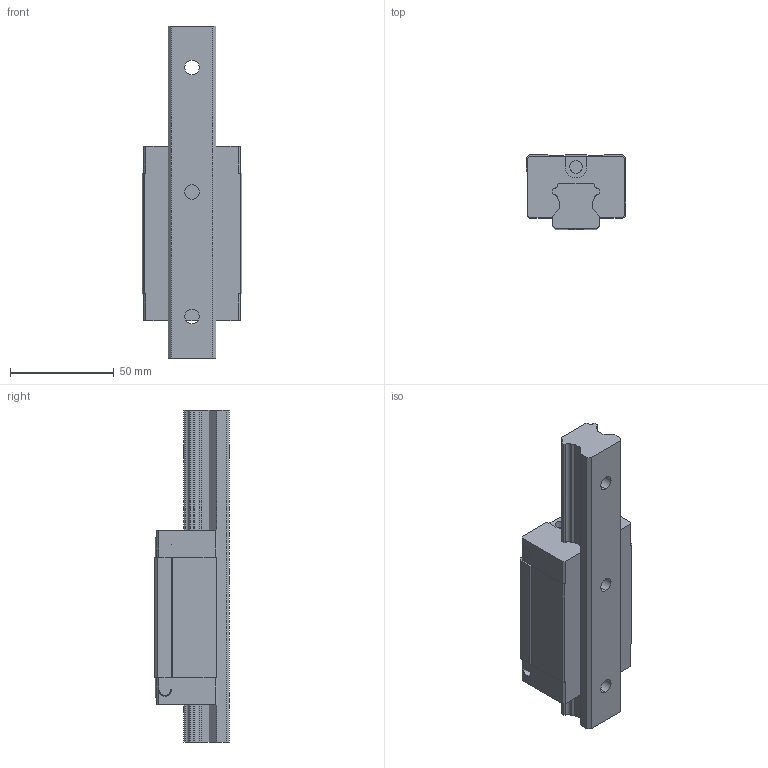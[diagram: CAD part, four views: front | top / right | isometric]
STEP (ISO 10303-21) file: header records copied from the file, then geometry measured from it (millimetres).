
FILE_DESCRIPTION((''),'2;1');
FILE_NAME('ASM0003_ASM','2008-07-14T',('immo'),(''),'PRO/ENGINEER BY PARAMETRIC TECHNOLOGY CORPORATION, 2004360','PRO/ENGINEER BY PARAMETRIC TECHNOLOGY CORPORATION, 2004360','');
FILE_SCHEMA(('CONFIG_CONTROL_DESIGN'));
Length unit declared in the file: millimetre
Products named in the file (7): HG-25-RAIL_6_1_1; HG-25-BLOCK_9_2_1; ASM_HG25_ASM_42_ASM_ASM_1_ASM_1_ASM; HG25C_ASM_ASM_1_ASM_1_ASM; HGL25CA_ASM_2_ASM_1_ASM; HGL25CA_ASM_3_ASM; ASM0003_ASM
Assembly tree (6 placements, depth 6):
  ASM0003_ASM
    HGL25CA_ASM_3_ASM
      HGL25CA_ASM_2_ASM_1_ASM
        HG25C_ASM_ASM_1_ASM_1_ASM
          ASM_HG25_ASM_42_ASM_ASM_1_ASM_1_ASM
            HG-25-RAIL_6_1_1
            HG-25-BLOCK_9_2_1
Bounding box: 48 x 36 x 160 mm (x, y, z)
Volume: 156539.2 mm3; surface area: 36857.6 mm2
Topology: 2 solids, 2 shells, 181 faces, 522 edges, 350 vertices
Faces by surface type: plane 121, cylinder 52, cone 8
Entity records: 6087 total; most frequent: DIRECTION 1054, CARTESIAN_POINT 1047, ORIENTED_EDGE 1012, EDGE_CURVE 506, VECTOR 356, LINE 356, AXIS2_PLACEMENT_3D 349, VERTEX_POINT 342
